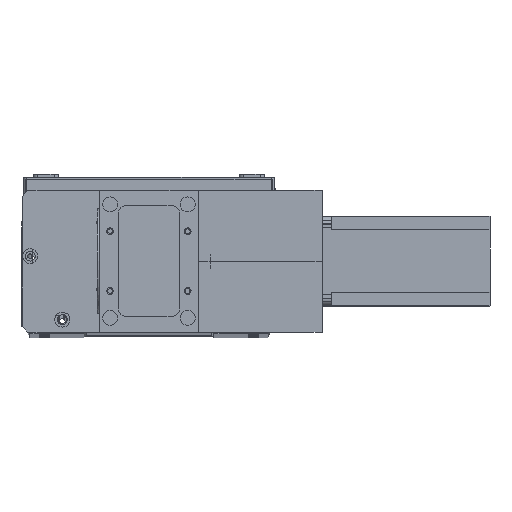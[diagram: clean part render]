
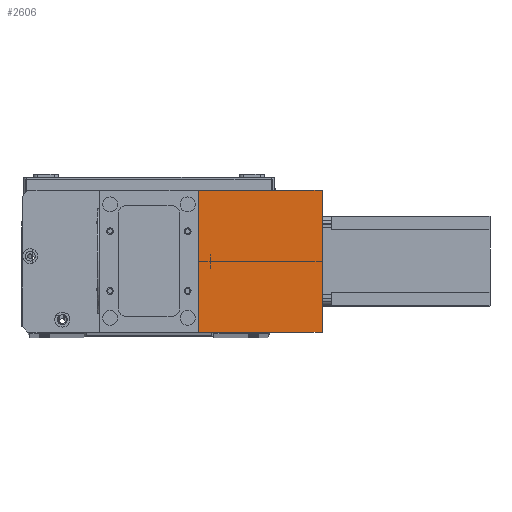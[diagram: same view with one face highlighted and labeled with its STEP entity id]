
A CAD part, top view. The second image highlights one B-rep face of the part: STEP entity #2606.
In plain terms, the highlighted planar face has unit normal (0, 0, 1) as drawn and (1, 0, 0) by its records, which use the part's own axes.
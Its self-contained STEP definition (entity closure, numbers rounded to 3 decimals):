
#1517 = PLANE ( 'NONE',  #12110 ) ;
#1569 = CARTESIAN_POINT ( 'NONE',  ( 82., 0., 83. ) ) ;
#1605 = DIRECTION ( 'NONE',  ( -1., 0., 0. ) ) ;
#1710 = DIRECTION ( 'NONE',  ( 0., 0., 1. ) ) ;
#1925 = CARTESIAN_POINT ( 'NONE',  ( 82., 95., 83. ) ) ;
#2012 = LINE ( 'NONE', #25746, #2762 ) ;
#2606 = ADVANCED_FACE ( 'NONE', ( #18503 ), #1517, .F. ) ;
#2762 = VECTOR ( 'NONE', #25816, 1000. ) ;
#4214 = ORIENTED_EDGE ( 'NONE', *, *, #12721, .T. ) ;
#5016 = LINE ( 'NONE', #27122, #10284 ) ;
#5366 = LINE ( 'NONE', #1925, #16551 ) ;
#5704 = VECTOR ( 'NONE', #22745, 1000. ) ;
#7048 = DIRECTION ( 'NONE',  ( 0., 0., -1. ) ) ;
#7746 = CARTESIAN_POINT ( 'NONE',  ( 82., 0., 83. ) ) ;
#10284 = VECTOR ( 'NONE', #13754, 1000. ) ;
#11209 = CARTESIAN_POINT ( 'NONE',  ( 82., 0., 0. ) ) ;
#12024 = VERTEX_POINT ( 'NONE', #11209 ) ;
#12110 = AXIS2_PLACEMENT_3D ( 'NONE', #1569, #1605, #1710 ) ;
#12158 = EDGE_CURVE ( 'NONE', #22783, #14309, #5016, .T. ) ;
#12201 = VERTEX_POINT ( 'NONE', #28447 ) ;
#12422 = EDGE_CURVE ( 'NONE', #14309, #12201, #5366, .T. ) ;
#12721 = EDGE_CURVE ( 'NONE', #12024, #12201, #28549, .T. ) ;
#13119 = EDGE_CURVE ( 'NONE', #22783, #12024, #2012, .T. ) ;
#13754 = DIRECTION ( 'NONE',  ( 0., 1., 0. ) ) ;
#14309 = VERTEX_POINT ( 'NONE', #15328 ) ;
#14764 = ORIENTED_EDGE ( 'NONE', *, *, #12422, .F. ) ;
#15328 = CARTESIAN_POINT ( 'NONE',  ( 82., 95., 83. ) ) ;
#16551 = VECTOR ( 'NONE', #7048, 1000. ) ;
#18503 = FACE_OUTER_BOUND ( 'NONE', #26593, .T. ) ;
#22745 = DIRECTION ( 'NONE',  ( 0., 1., 0. ) ) ;
#22783 = VERTEX_POINT ( 'NONE', #7746 ) ;
#22988 = CARTESIAN_POINT ( 'NONE',  ( 82., 0., 0. ) ) ;
#23208 = ORIENTED_EDGE ( 'NONE', *, *, #12158, .F. ) ;
#23403 = ORIENTED_EDGE ( 'NONE', *, *, #13119, .T. ) ;
#25746 = CARTESIAN_POINT ( 'NONE',  ( 82., 0., 83. ) ) ;
#25816 = DIRECTION ( 'NONE',  ( 0., 0., -1. ) ) ;
#26593 = EDGE_LOOP ( 'NONE', ( #4214, #14764, #23208, #23403 ) ) ;
#27122 = CARTESIAN_POINT ( 'NONE',  ( 82., 0., 83. ) ) ;
#28447 = CARTESIAN_POINT ( 'NONE',  ( 82., 95., 0. ) ) ;
#28549 = LINE ( 'NONE', #22988, #5704 ) ;
